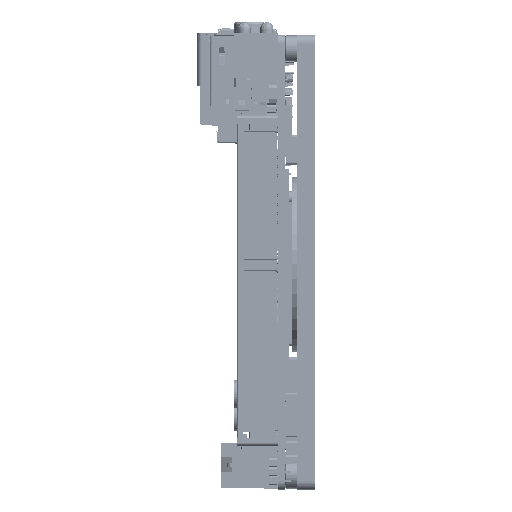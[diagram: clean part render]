
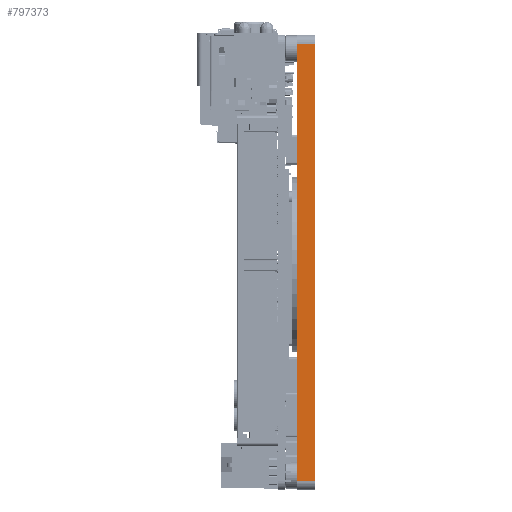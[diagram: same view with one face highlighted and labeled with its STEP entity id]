
A CAD part, left-side view. The second image highlights one B-rep face of the part: STEP entity #797373.
In plain terms, the highlighted planar face has unit normal (-1, 0, 0).
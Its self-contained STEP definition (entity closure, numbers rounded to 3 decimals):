
#792734=DIRECTION('',(0.,0.,1.));
#792735=VECTOR('',#792734,97.6);
#792736=CARTESIAN_POINT('',(-73.025,0.,-48.8));
#792737=LINE('',#792736,#792735);
#793344=DIRECTION('',(0.,0.,1.));
#793345=VECTOR('',#793344,97.6);
#793346=CARTESIAN_POINT('',(-73.025,4.,-48.8));
#793347=LINE('',#793346,#793345);
#794916=DIRECTION('',(0.,-1.,0.));
#794917=VECTOR('',#794916,4.);
#794918=CARTESIAN_POINT('',(-73.025,4.,-48.8));
#794919=LINE('',#794918,#794917);
#794923=DIRECTION('',(0.,-1.,0.));
#794924=VECTOR('',#794923,4.);
#794925=CARTESIAN_POINT('',(-73.025,4.,48.8));
#794926=LINE('',#794925,#794924);
#795025=CARTESIAN_POINT('',(-73.025,0.,-48.8));
#795027=VERTEX_POINT('',#795025);
#795030=CARTESIAN_POINT('',(-73.025,0.,48.8));
#795032=VERTEX_POINT('',#795030);
#795207=CARTESIAN_POINT('',(-73.025,4.,-48.8));
#795208=VERTEX_POINT('',#795207);
#795209=CARTESIAN_POINT('',(-73.025,4.,48.8));
#795210=VERTEX_POINT('',#795209);
#797362=CARTESIAN_POINT('',(-73.025,0.,-50.8));
#797363=DIRECTION('',(-1.,0.,0.));
#797364=DIRECTION('',(0.,0.,1.));
#797365=AXIS2_PLACEMENT_3D('',#797362,#797363,#797364);
#797366=PLANE('',#797365);
#797367=ORIENTED_EDGE('',*,*,#795503,.F.);
#797368=ORIENTED_EDGE('',*,*,#795617,.T.);
#797369=ORIENTED_EDGE('',*,*,#797355,.T.);
#797370=ORIENTED_EDGE('',*,*,#795416,.F.);
#797371=EDGE_LOOP('',(#797367,#797368,#797369,#797370));
#797372=FACE_OUTER_BOUND('',#797371,.F.);
#797373=ADVANCED_FACE('',(#797372),#797366,.T.);
#795416=EDGE_CURVE('',#795027,#795032,#792737,.T.);
#795503=EDGE_CURVE('',#795208,#795027,#794919,.T.);
#795617=EDGE_CURVE('',#795208,#795210,#793347,.T.);
#797355=EDGE_CURVE('',#795210,#795032,#794926,.T.);
